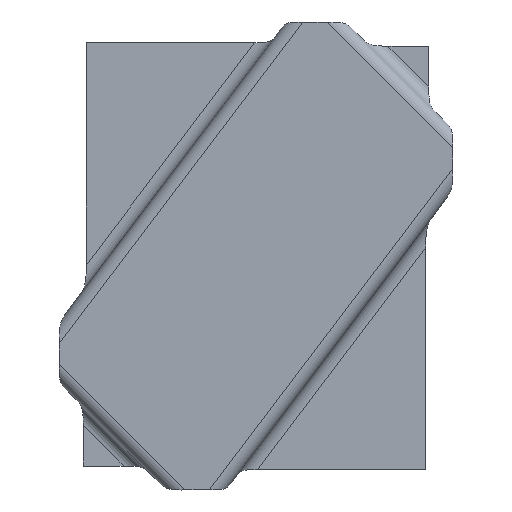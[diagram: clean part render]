
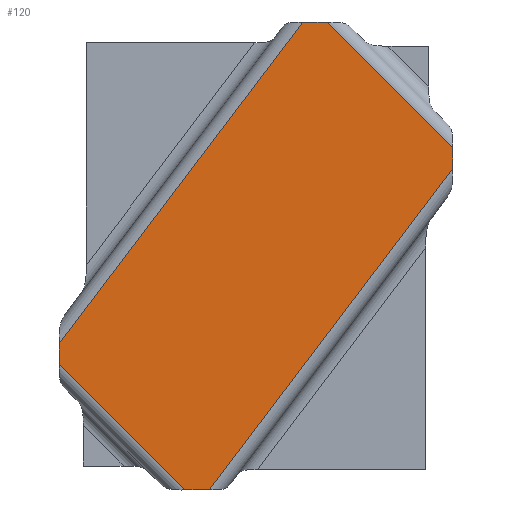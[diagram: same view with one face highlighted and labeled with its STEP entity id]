
A CAD part, top view. The second image highlights one B-rep face of the part: STEP entity #120.
In plain terms, the highlighted planar face has unit normal (0, 0, -1).
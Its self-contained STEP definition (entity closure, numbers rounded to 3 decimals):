
#53=CARTESIAN_POINT('Axis2P3D Location',(-51.513,38.976,65.097)) ;
#59=CARTESIAN_POINT('Control Point',(-51.513,78.318,65.097)) ;
#60=CARTESIAN_POINT('Control Point',(14.053,164.976,65.097)) ;
#61=CARTESIAN_POINT('Vertex',(-51.513,78.318,65.097)) ;
#63=CARTESIAN_POINT('Vertex',(14.053,164.976,65.097)) ;
#66=CARTESIAN_POINT('Line Origine',(1.487,164.976,65.097)) ;
#70=CARTESIAN_POINT('Vertex',(20.661,164.976,65.097)) ;
#74=CARTESIAN_POINT('Control Point',(20.661,164.976,65.097)) ;
#75=CARTESIAN_POINT('Control Point',(54.487,131.15,65.097)) ;
#76=CARTESIAN_POINT('Vertex',(54.487,131.15,65.097)) ;
#79=CARTESIAN_POINT('Line Origine',(54.487,101.976,65.097)) ;
#83=CARTESIAN_POINT('Vertex',(54.487,125.591,65.097)) ;
#87=CARTESIAN_POINT('Control Point',(54.487,125.591,65.097)) ;
#88=CARTESIAN_POINT('Control Point',(-11.048,38.976,65.097)) ;
#89=CARTESIAN_POINT('Vertex',(-11.048,38.976,65.097)) ;
#92=CARTESIAN_POINT('Line Origine',(1.487,38.976,65.097)) ;
#96=CARTESIAN_POINT('Vertex',(-17.687,38.976,65.097)) ;
#100=CARTESIAN_POINT('Control Point',(-51.513,72.802,65.097)) ;
#101=CARTESIAN_POINT('Control Point',(-17.687,38.976,65.097)) ;
#102=CARTESIAN_POINT('Vertex',(-51.513,72.802,65.097)) ;
#105=CARTESIAN_POINT('Line Origine',(-51.513,101.976,65.097)) ;
#54=DIRECTION('Axis2P3D Direction',(0.,0.,1.)) ;
#55=DIRECTION('Axis2P3D XDirection',(1.,0.,0.)) ;
#67=DIRECTION('Vector Direction',(1.,0.,0.)) ;
#80=DIRECTION('Vector Direction',(0.,1.,0.)) ;
#93=DIRECTION('Vector Direction',(1.,0.,0.)) ;
#106=DIRECTION('Vector Direction',(0.,1.,0.)) ;
#56=AXIS2_PLACEMENT_3D('Plane Axis2P3D',#53,#54,#55) ;
#111=ORIENTED_EDGE('',*,*,#65,.T.) ;
#112=ORIENTED_EDGE('',*,*,#72,.T.) ;
#113=ORIENTED_EDGE('',*,*,#78,.T.) ;
#114=ORIENTED_EDGE('',*,*,#85,.T.) ;
#115=ORIENTED_EDGE('',*,*,#91,.T.) ;
#116=ORIENTED_EDGE('',*,*,#98,.T.) ;
#117=ORIENTED_EDGE('',*,*,#104,.F.) ;
#118=ORIENTED_EDGE('',*,*,#109,.T.) ;
#68=VECTOR('Line Direction',#67,1.) ;
#81=VECTOR('Line Direction',#80,1.) ;
#94=VECTOR('Line Direction',#93,1.) ;
#107=VECTOR('Line Direction',#106,1.) ;
#120=ADVANCED_FACE('Offset.1',(#119),#57,.F.) ;
#58=B_SPLINE_CURVE_WITH_KNOTS('',1,(#59,#60),.UNSPECIFIED.,.F.,.U.,(2,2),(-54.334,54.334),.UNSPECIFIED.) ;
#73=B_SPLINE_CURVE_WITH_KNOTS('',1,(#74,#75),.UNSPECIFIED.,.F.,.U.,(2,2),(-23.919,23.919),.UNSPECIFIED.) ;
#86=B_SPLINE_CURVE_WITH_KNOTS('',1,(#87,#88),.UNSPECIFIED.,.F.,.U.,(2,2),(-54.307,54.307),.UNSPECIFIED.) ;
#99=B_SPLINE_CURVE_WITH_KNOTS('',1,(#100,#101),.UNSPECIFIED.,.F.,.U.,(2,2),(-23.919,23.919),.UNSPECIFIED.) ;
#65=EDGE_CURVE('',#62,#64,#58,.T.) ;
#72=EDGE_CURVE('',#64,#71,#69,.T.) ;
#78=EDGE_CURVE('',#71,#77,#73,.T.) ;
#85=EDGE_CURVE('',#77,#84,#82,.F.) ;
#91=EDGE_CURVE('',#84,#90,#86,.T.) ;
#98=EDGE_CURVE('',#90,#97,#95,.F.) ;
#104=EDGE_CURVE('',#103,#97,#99,.T.) ;
#109=EDGE_CURVE('',#103,#62,#108,.T.) ;
#110=EDGE_LOOP('',(#111,#112,#113,#114,#115,#116,#117,#118)) ;
#119=FACE_OUTER_BOUND('',#110,.T.) ;
#69=LINE('Line',#66,#68) ;
#82=LINE('Line',#79,#81) ;
#95=LINE('Line',#92,#94) ;
#108=LINE('Line',#105,#107) ;
#57=PLANE('',#56) ;
#62=VERTEX_POINT('',#61) ;
#64=VERTEX_POINT('',#63) ;
#71=VERTEX_POINT('',#70) ;
#77=VERTEX_POINT('',#76) ;
#84=VERTEX_POINT('',#83) ;
#90=VERTEX_POINT('',#89) ;
#97=VERTEX_POINT('',#96) ;
#103=VERTEX_POINT('',#102) ;
